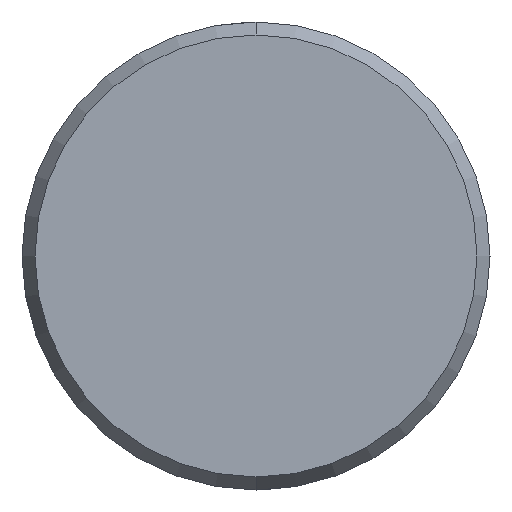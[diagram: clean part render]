
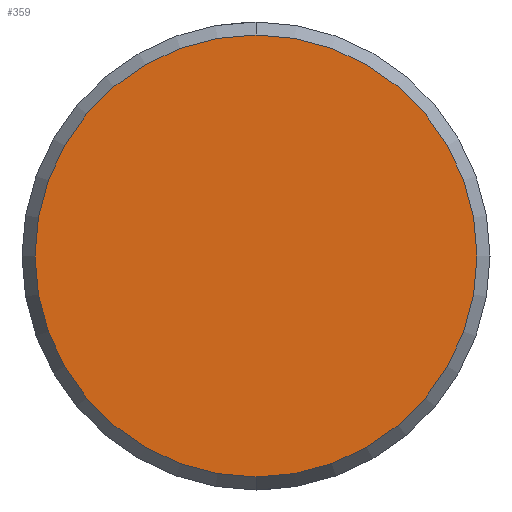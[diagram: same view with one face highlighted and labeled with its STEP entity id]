
A CAD part, front view. The second image highlights one B-rep face of the part: STEP entity #359.
In plain terms, the highlighted planar face has unit normal (0, -1, 0).
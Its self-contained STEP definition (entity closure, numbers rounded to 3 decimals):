
#9 = CIRCLE ( 'NONE', #21, 85. ) ;
#21 = AXIS2_PLACEMENT_3D ( 'NONE', #137, #739, #541 ) ;
#51 = FACE_OUTER_BOUND ( 'NONE', #83, .T. ) ;
#59 = AXIS2_PLACEMENT_3D ( 'NONE', #283, #683, #173 ) ;
#75 = CIRCLE ( 'NONE', #59, 85. ) ;
#83 = EDGE_LOOP ( 'NONE', ( #471, #163 ) ) ;
#137 = CARTESIAN_POINT ( 'NONE',  ( 0., -600., 0. ) ) ;
#163 = ORIENTED_EDGE ( 'NONE', *, *, #1114, .T. ) ;
#173 = DIRECTION ( 'NONE',  ( 0., 0., -1. ) ) ;
#202 = DIRECTION ( 'NONE',  ( 0., 1., 0. ) ) ;
#221 = CARTESIAN_POINT ( 'NONE',  ( 0., -600., 85. ) ) ;
#283 = CARTESIAN_POINT ( 'NONE',  ( 0., -600., 0. ) ) ;
#296 = PLANE ( 'NONE',  #1036 ) ;
#316 = CARTESIAN_POINT ( 'NONE',  ( -85., -600., 0. ) ) ;
#359 = ADVANCED_FACE ( 'NONE', ( #51 ), #296, .F. ) ;
#471 = ORIENTED_EDGE ( 'NONE', *, *, #920, .T. ) ;
#541 = DIRECTION ( 'NONE',  ( 0., 0., -1. ) ) ;
#604 = DIRECTION ( 'NONE',  ( 0., 0., 1. ) ) ;
#672 = VERTEX_POINT ( 'NONE', #1158 ) ;
#683 = DIRECTION ( 'NONE',  ( 0., -1., 0. ) ) ;
#739 = DIRECTION ( 'NONE',  ( 0., -1., 0. ) ) ;
#898 = VERTEX_POINT ( 'NONE', #221 ) ;
#920 = EDGE_CURVE ( 'NONE', #898, #672, #9, .T. ) ;
#1036 = AXIS2_PLACEMENT_3D ( 'NONE', #316, #202, #604 ) ;
#1114 = EDGE_CURVE ( 'NONE', #672, #898, #75, .T. ) ;
#1158 = CARTESIAN_POINT ( 'NONE',  ( 0., -600., -85. ) ) ;
